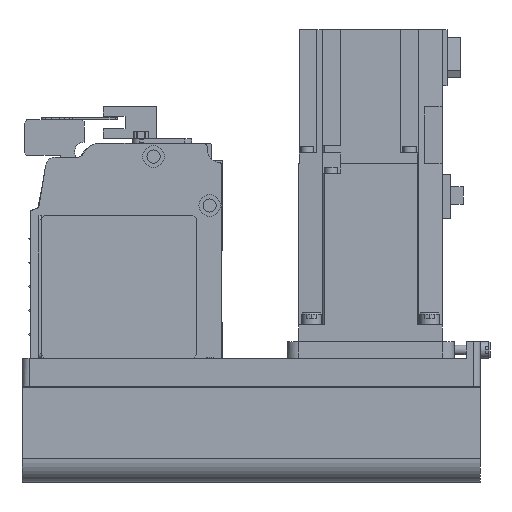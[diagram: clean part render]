
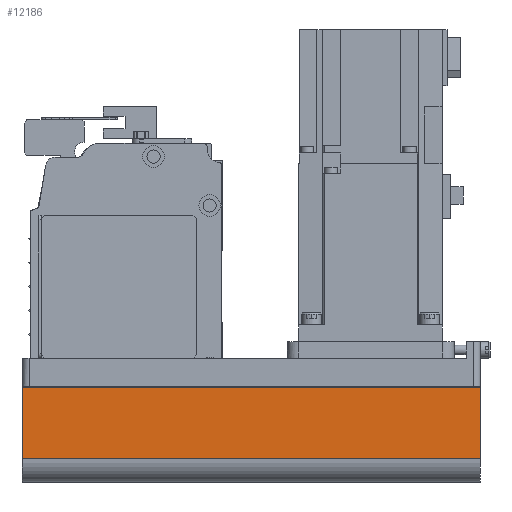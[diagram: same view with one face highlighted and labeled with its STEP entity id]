
A CAD part, left-side view. The second image highlights one B-rep face of the part: STEP entity #12186.
In plain terms, the highlighted planar face has unit normal (-1, 0, 0) as drawn and (0, 1, 0) by its records, which use the part's own axes.
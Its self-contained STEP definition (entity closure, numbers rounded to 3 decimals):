
#2183=ORIENTED_EDGE('',*,*,#4949,.F.);
#2184=ORIENTED_EDGE('',*,*,#4981,.F.);
#2185=ORIENTED_EDGE('',*,*,#4936,.T.);
#2186=ORIENTED_EDGE('',*,*,#4921,.T.);
#4921=EDGE_CURVE('',#6463,#6464,#7691,.T.);
#4936=EDGE_CURVE('',#6475,#6463,#7704,.T.);
#4949=EDGE_CURVE('',#6485,#6464,#7713,.T.);
#4981=EDGE_CURVE('',#6475,#6485,#7725,.T.);
#6463=VERTEX_POINT('',#18971);
#6464=VERTEX_POINT('',#18972);
#6475=VERTEX_POINT('',#19000);
#6485=VERTEX_POINT('',#19027);
#7691=LINE('',#18970,#8919);
#7704=LINE('',#18999,#8932);
#7713=LINE('',#19026,#8941);
#7725=LINE('',#19081,#8953);
#8919=VECTOR('',#15254,1000.);
#8932=VECTOR('',#15275,1000.);
#8941=VECTOR('',#15300,1000.);
#8953=VECTOR('',#15378,1000.);
#10008=EDGE_LOOP('',(#2183,#2184,#2185,#2186));
#10902=FACE_BOUND('',#10008,.T.);
#11629=PLANE('',#13133);
#12186=ADVANCED_FACE('',(#10902),#11629,.T.);
#13133=AXIS2_PLACEMENT_3D('',#19080,#15376,#15377);
#15254=DIRECTION('',(1.,0.,0.));
#15275=DIRECTION('',(0.,0.,1.));
#15300=DIRECTION('',(0.,0.,1.));
#15376=DIRECTION('',(0.,1.,0.));
#15377=DIRECTION('',(0.,0.,1.));
#15378=DIRECTION('',(1.,0.,0.));
#18970=CARTESIAN_POINT('',(-192.,40.,-12.1));
#18971=CARTESIAN_POINT('',(-192.,40.,-12.1));
#18972=CARTESIAN_POINT('',(0.,40.,-12.1));
#18999=CARTESIAN_POINT('',(-192.,40.,-42.));
#19000=CARTESIAN_POINT('',(-192.,40.,-42.));
#19026=CARTESIAN_POINT('',(0.,40.,-42.));
#19027=CARTESIAN_POINT('',(0.,40.,-42.));
#19080=CARTESIAN_POINT('',(-192.,40.,-42.));
#19081=CARTESIAN_POINT('',(-192.,40.,-42.));
